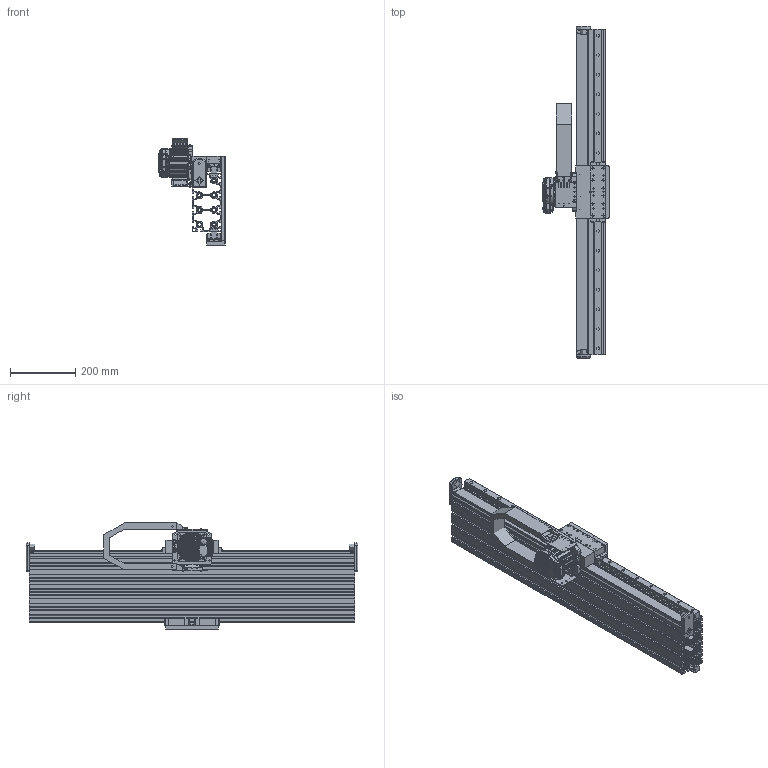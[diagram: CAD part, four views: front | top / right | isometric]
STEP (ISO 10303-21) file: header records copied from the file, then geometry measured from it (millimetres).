
FILE_DESCRIPTION( ( '' ), ' ' );
FILE_NAME( '/vol/tmp/translate-339519591587497867/5c7ea2d1cb3f0b1ca4a5cfe6.step', '2019-03-05T16:24:55', ( '' ), ( '' ), ' ', ' ', ' ' );
FILE_SCHEMA( ( 'AUTOMOTIVE_DESIGN { 1 0 10303 214 1 1 1 1 }' ) );
Length unit declared in the file: metre
Products named in the file (104): RAIL FASTENERS <16>; 20mm BEARING RAIL CAP; 100001-8065 M5-.80 X 25 ALLOY SHCS; 102684-001 BOSCH 10mm T-BLOCK M5; RAIL FASTENERS <15>; RAIL FASTENERS <8>; RAIL FASTENERS <3>; RAIL FASTENERS <10>; RAIL FASTENERS <6>; RAIL FASTENERS <12>; RAIL FASTENERS <11>; RAIL FASTENERS <4>; TRAY FASTENERS <1>; #8799; #8807; RAIL FASTENERS <14>; RAIL FASTENERS <13>; RAIL FASTENERS <17>; RAIL FASTENERS <2>; RAIL FASTENERS <1>; RAIL FASTENERS <7>; RAIL FASTENERS <9>; TRAY FASTENERS <5>; RAIL FASTENERS <5>; TRAY FASTENERS <3>; TRAY FASTENERS <2>; TRAY FASTENERS <4>; 104587-001 SBL-M DYNAMIC BEARING ASSEMBLY <2>; 102638-005 5202 SHIELDED DOUBLE ROW BALL BEARING; 103126-001 SBL-M BEARING SHAFT; CPM34XX & PINION <1>; 100013-008 M4 X 6 SS SET SCREW; GENERIC CPM 342X; 102695-001 SERVOBELT PINION GEAR 15T .500 BORE; RAIL <2>; 102732-1000 20mm STANDARD GUIDE RAIL; 106888-001 20mm RAIL COVER; TRAY <1>; 102610-005 VHB TAPE 1-1/4 WIDE; 102567-001 T5 X 32mm BELTING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
Assembly tree (274 placements, depth 5):
  Assem1
    100001-086 M8-1.25 X 20 SS SHCS  x4
    102977-001 LINKS
    102567-001 T5 X 32mm BELTING
    107370-002 SBL-M 180S GANTRY STAGE PLATE
    SBL-M CPM34XX MOTOR MOUNT <1>
      100003-005 M6 SS F/W  x4
      100011-8029 M5-.80 X 16 ALLOY FHCS  x4
      100007-016 M5-.80 SS HEX NUT  x4
      100001-074 M6-1.0 X 16 SS  SHCS  x4
      105432-001 SBL-M NEMA 34 MOTOR MOUNT (TEKNIC)
      CPM34XX & PINION <1>
        100013-008 M4 X 6 SS SET SCREW  x2
        GENERIC CPM 342X
        102695-001 SERVOBELT PINION GEAR 15T .500 BORE
    HI-STRENGTH SHORT BASELINE CARRIAGE <1>
      91585A645  x2
      100001-141 M6-1.0 X 18 SS  SHCS  x5
      102992-004 SBL TUNABLE GANTRY CARRIAGE HI-STRENGTH
      100001-8061 M5-.80 X 12 ALLOY SHCS  x8
      102523-001 REXROTH 20mm STD 4-HOLE BEARING BLOCK  x2
    107185-006 105274-002 BASE BLOCK 4X M8 WITH STANDARD BLOCKS <1>
      100001-8062 M5-.80 X 14 ALLOY SHCS  x8
      102523-001 REXROTH 20mm STD 4-HOLE BEARING BLOCK  x2
      105274-002 SBL-M 90 CARRIAGE BASE BLOCK
    1000 CHASSIS <1>
      102927-1000  90-SERIES PROFILE 90X180
      RAIL <2>
        102732-1000 20mm STANDARD GUIDE RAIL
        106888-001 20mm RAIL COVER
        RAIL FASTENERS <15>
          100001-8065 M5-.80 X 25 ALLOY SHCS
          102684-001 BOSCH 10mm T-BLOCK M5
          20mm BEARING RAIL CAP
        RAIL FASTENERS <3>
          100001-8065 M5-.80 X 25 ALLOY SHCS
          102684-001 BOSCH 10mm T-BLOCK M5
          20mm BEARING RAIL CAP
        RAIL FASTENERS <4>
          20mm BEARING RAIL CAP
          102684-001 BOSCH 10mm T-BLOCK M5
          100001-8065 M5-.80 X 25 ALLOY SHCS
        RAIL FASTENERS <7>
          20mm BEARING RAIL CAP
          102684-001 BOSCH 10mm T-BLOCK M5
          100001-8065 M5-.80 X 25 ALLOY SHCS
        RAIL FASTENERS <2>
          102684-001 BOSCH 10mm T-BLOCK M5
          100001-8065 M5-.80 X 25 ALLOY SHCS
          20mm BEARING RAIL CAP
        RAIL FASTENERS <1>
          20mm BEARING RAIL CAP
          100001-8065 M5-.80 X 25 ALLOY SHCS
          102684-001 BOSCH 10mm T-BLOCK M5
        RAIL FASTENERS <10>
          102684-001 BOSCH 10mm T-BLOCK M5
          100001-8065 M5-.80 X 25 ALLOY SHCS
          20mm BEARING RAIL CAP
        RAIL FASTENERS <9>
          20mm BEARING RAIL CAP
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Bounding box: 204.62 x 1019.05 x 325.47 mm (x, y, z)
Topology: 244 solids, 249 shells, 9973 faces, 25380 edges, 16106 vertices
Faces by surface type: plane 4340, cylinder 2765, bspline 1034, torus 907, cone 737, sphere 148, extrusion 40, revolution 2
Full cylindrical faces by diameter (mm): 0.152 x1, 2.2 x31, 2.261 x25, 2.44 x25, 2.47 x4, 2.5 x32, 2.6 x8, 2.66 x8, 2.997 x4, 3 x12, 3.175 x1, 3.184 x1, 3.2 x4, 3.3 x5, 3.4 x2, 3.454 x5, 4 x2, 4.166 x5, 4.2 x13, 4.216 x16, 4.5 x7, 5 x74, 5.004 x60, 5.156 x5, 5.284 x1, 5.5 x60, 5.563 x12, 5.6 x4, 5.85 x8, 6 x23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
Entity records: 364266 total; most frequent: CARTESIAN_POINT 141321, ORIENTED_EDGE 34064, DIRECTION 34038, EDGE_CURVE 17032, AXIS2_PLACEMENT_3D 13540, VERTEX_POINT 11267, EDGE_LOOP 8712, FACE_OUTER_BOUND 7864
